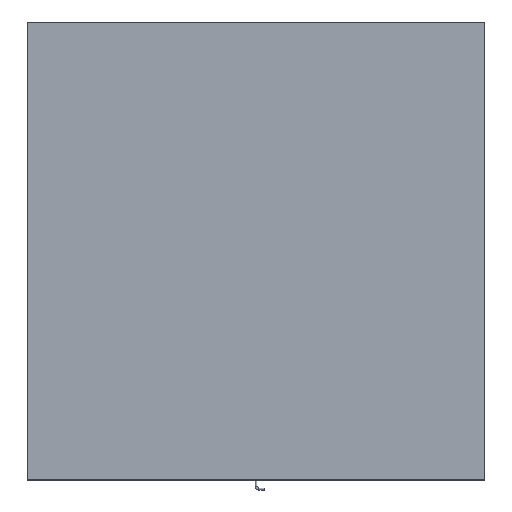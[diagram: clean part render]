
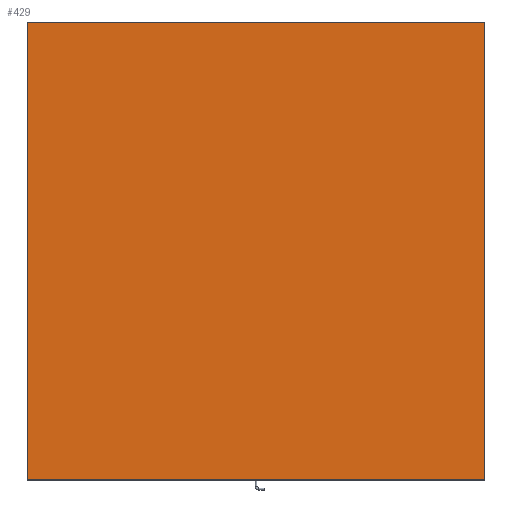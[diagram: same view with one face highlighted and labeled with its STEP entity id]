
A CAD part, top view. The second image highlights one B-rep face of the part: STEP entity #429.
In plain terms, the highlighted planar face has unit normal (0, 0, 1).
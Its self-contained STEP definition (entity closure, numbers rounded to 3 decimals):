
#7 = ORIENTED_EDGE ( 'NONE', *, *, #202, .T. ) ;
#8 = DIRECTION ( 'NONE',  ( 1., 0., 0. ) ) ;
#10 = LINE ( 'NONE', #1751, #1081 ) ;
#13 = CARTESIAN_POINT ( 'NONE',  ( -407., 406.5, 41. ) ) ;
#25 = CARTESIAN_POINT ( 'NONE',  ( -406.5, -407., 41. ) ) ;
#31 = VERTEX_POINT ( 'NONE', #88 ) ;
#50 = DIRECTION ( 'NONE',  ( -1., 0., 0. ) ) ;
#52 = LINE ( 'NONE', #1294, #1777 ) ;
#88 = CARTESIAN_POINT ( 'NONE',  ( -406.5, -407., 41. ) ) ;
#93 = EDGE_CURVE ( 'NONE', #1213, #252, #1699, .T. ) ;
#110 = VERTEX_POINT ( 'NONE', #1525 ) ;
#202 = EDGE_CURVE ( 'NONE', #31, #1213, #1743, .T. ) ;
#252 = VERTEX_POINT ( 'NONE', #973 ) ;
#274 = EDGE_CURVE ( 'NONE', #110, #31, #1814, .T. ) ;
#285 = EDGE_CURVE ( 'NONE', #1234, #933, #762, .T. ) ;
#316 = ORIENTED_EDGE ( 'NONE', *, *, #1043, .T. ) ;
#375 = DIRECTION ( 'NONE',  ( -0.707, 0.707, 0. ) ) ;
#397 = VECTOR ( 'NONE', #1278, 1000. ) ;
#429 = ADVANCED_FACE ( 'NONE', ( #1323 ), #889, .F. ) ;
#501 = ORIENTED_EDGE ( 'NONE', *, *, #274, .T. ) ;
#541 = LINE ( 'NONE', #882, #1760 ) ;
#566 = LINE ( 'NONE', #1348, #1332 ) ;
#577 = CARTESIAN_POINT ( 'NONE',  ( 406.5, 407., 41. ) ) ;
#622 = DIRECTION ( 'NONE',  ( 0., 1., 0. ) ) ;
#629 = ORIENTED_EDGE ( 'NONE', *, *, #93, .T. ) ;
#695 = CARTESIAN_POINT ( 'NONE',  ( 407., -406.5, 41. ) ) ;
#762 = LINE ( 'NONE', #1267, #397 ) ;
#863 = EDGE_CURVE ( 'NONE', #252, #1637, #52, .T. ) ;
#882 = CARTESIAN_POINT ( 'NONE',  ( -407., 407., 41. ) ) ;
#886 = DIRECTION ( 'NONE',  ( 0., 0., -1. ) ) ;
#889 = PLANE ( 'NONE',  #1093 ) ;
#907 = DIRECTION ( 'NONE',  ( 0., -1., 0. ) ) ;
#918 = ORIENTED_EDGE ( 'NONE', *, *, #285, .T. ) ;
#933 = VERTEX_POINT ( 'NONE', #13 ) ;
#973 = CARTESIAN_POINT ( 'NONE',  ( 407., -406.5, 41. ) ) ;
#991 = VECTOR ( 'NONE', #8, 1000. ) ;
#1017 = CARTESIAN_POINT ( 'NONE',  ( 0., 0., 41. ) ) ;
#1043 = EDGE_CURVE ( 'NONE', #1683, #1234, #541, .T. ) ;
#1081 = VECTOR ( 'NONE', #907, 1000. ) ;
#1089 = CARTESIAN_POINT ( 'NONE',  ( -407., -407., 41. ) ) ;
#1093 = AXIS2_PLACEMENT_3D ( 'NONE', #1017, #886, #50 ) ;
#1130 = EDGE_LOOP ( 'NONE', ( #1442, #501, #7, #629, #1288, #1378, #316, #918 ) ) ;
#1142 = EDGE_CURVE ( 'NONE', #933, #110, #10, .T. ) ;
#1147 = DIRECTION ( 'NONE',  ( 0.707, -0.707, 0. ) ) ;
#1156 = EDGE_CURVE ( 'NONE', #1637, #1683, #566, .T. ) ;
#1213 = VERTEX_POINT ( 'NONE', #1661 ) ;
#1225 = VECTOR ( 'NONE', #1147, 1000. ) ;
#1234 = VERTEX_POINT ( 'NONE', #1394 ) ;
#1244 = CARTESIAN_POINT ( 'NONE',  ( 407., 406.5, 41. ) ) ;
#1256 = DIRECTION ( 'NONE',  ( 0.707, 0.707, 0. ) ) ;
#1267 = CARTESIAN_POINT ( 'NONE',  ( -407., 406.5, 41. ) ) ;
#1278 = DIRECTION ( 'NONE',  ( -0.707, -0.707, 0. ) ) ;
#1288 = ORIENTED_EDGE ( 'NONE', *, *, #863, .T. ) ;
#1294 = CARTESIAN_POINT ( 'NONE',  ( 407., -407., 41. ) ) ;
#1323 = FACE_OUTER_BOUND ( 'NONE', #1130, .T. ) ;
#1332 = VECTOR ( 'NONE', #375, 1000. ) ;
#1336 = VECTOR ( 'NONE', #1256, 1000. ) ;
#1348 = CARTESIAN_POINT ( 'NONE',  ( 406.5, 407., 41. ) ) ;
#1378 = ORIENTED_EDGE ( 'NONE', *, *, #1156, .T. ) ;
#1394 = CARTESIAN_POINT ( 'NONE',  ( -406.5, 407., 41. ) ) ;
#1442 = ORIENTED_EDGE ( 'NONE', *, *, #1142, .T. ) ;
#1453 = DIRECTION ( 'NONE',  ( -1., 0., 0. ) ) ;
#1525 = CARTESIAN_POINT ( 'NONE',  ( -407., -406.5, 41. ) ) ;
#1637 = VERTEX_POINT ( 'NONE', #1244 ) ;
#1661 = CARTESIAN_POINT ( 'NONE',  ( 406.5, -407., 41. ) ) ;
#1683 = VERTEX_POINT ( 'NONE', #577 ) ;
#1699 = LINE ( 'NONE', #695, #1336 ) ;
#1743 = LINE ( 'NONE', #1089, #991 ) ;
#1751 = CARTESIAN_POINT ( 'NONE',  ( -407., -407., 41. ) ) ;
#1760 = VECTOR ( 'NONE', #1453, 1000. ) ;
#1777 = VECTOR ( 'NONE', #622, 1000. ) ;
#1814 = LINE ( 'NONE', #25, #1225 ) ;
